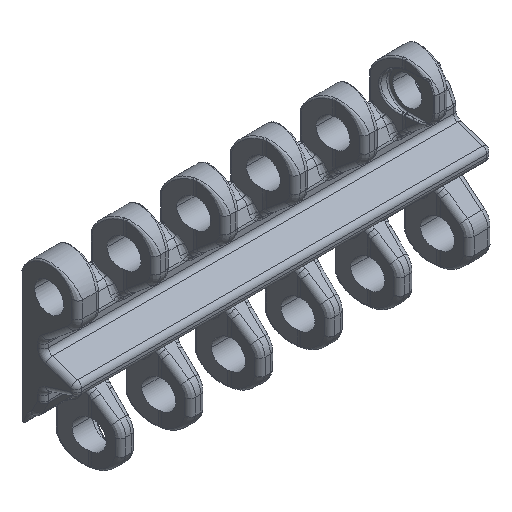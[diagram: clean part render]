
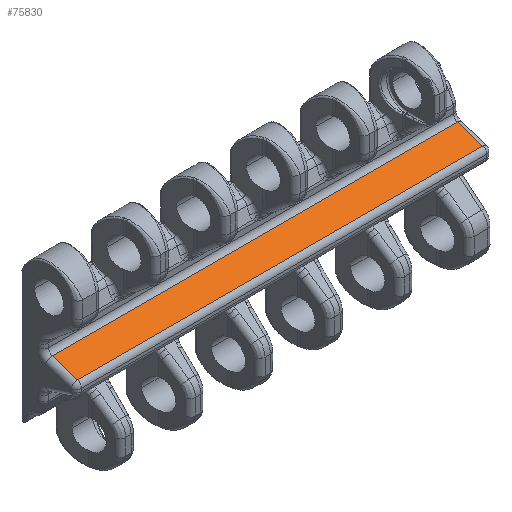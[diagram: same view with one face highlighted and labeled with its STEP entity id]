
A CAD part, isometric view. The second image highlights one B-rep face of the part: STEP entity #75830.
In plain terms, the highlighted planar face has unit normal (0, -0.309, 0.951).
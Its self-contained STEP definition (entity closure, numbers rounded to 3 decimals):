
#24995=DIRECTION('',(-1.,0.,0.));
#24996=VECTOR('',#24995,73.85);
#24997=CARTESIAN_POINT('',(36.925,0.409,2.725));
#24998=LINE('',#24997,#24996);
#25004=DIRECTION('',(0.,-0.951,-0.309));
#25005=VECTOR('',#25004,4.856);
#25006=CARTESIAN_POINT('',(36.925,0.409,2.725));
#25007=LINE('',#25006,#25005);
#25008=DIRECTION('',(-1.,0.,0.));
#25009=VECTOR('',#25008,73.85);
#25010=CARTESIAN_POINT('',(36.925,-4.209,1.225));
#25011=LINE('',#25010,#25009);
#25012=DIRECTION('',(0.,0.951,0.309));
#25013=VECTOR('',#25012,4.856);
#25014=CARTESIAN_POINT('',(-36.925,-4.209,1.225));
#25015=LINE('',#25014,#25013);
#28957=CARTESIAN_POINT('',(36.925,-4.209,1.225));
#28958=VERTEX_POINT('',#28957);
#28961=CARTESIAN_POINT('',(36.925,0.409,2.725));
#28962=VERTEX_POINT('',#28961);
#29010=CARTESIAN_POINT('',(-36.925,0.409,2.725));
#29011=VERTEX_POINT('',#29010);
#29014=CARTESIAN_POINT('',(-36.925,-4.209,1.225));
#29015=VERTEX_POINT('',#29014);
#75819=CARTESIAN_POINT('',(34.75,0.409,2.725));
#75820=DIRECTION('',(0.,-0.309,0.951));
#75821=DIRECTION('',(0.,-0.951,-0.309));
#75822=AXIS2_PLACEMENT_3D('',#75819,#75820,#75821);
#75823=PLANE('',#75822);
#75824=ORIENTED_EDGE('',*,*,#33717,.T.);
#75825=ORIENTED_EDGE('',*,*,#33746,.T.);
#75826=ORIENTED_EDGE('',*,*,#33932,.T.);
#75827=ORIENTED_EDGE('',*,*,#75812,.F.);
#75828=EDGE_LOOP('',(#75824,#75825,#75826,#75827));
#75829=FACE_OUTER_BOUND('',#75828,.F.);
#33717=EDGE_CURVE('',#28962,#28958,#25007,.T.);
#33746=EDGE_CURVE('',#28958,#29015,#25011,.T.);
#33932=EDGE_CURVE('',#29015,#29011,#25015,.T.);
#75812=EDGE_CURVE('',#28962,#29011,#24998,.T.);
#75830=ADVANCED_FACE('',(#75829),#75823,.T.);
